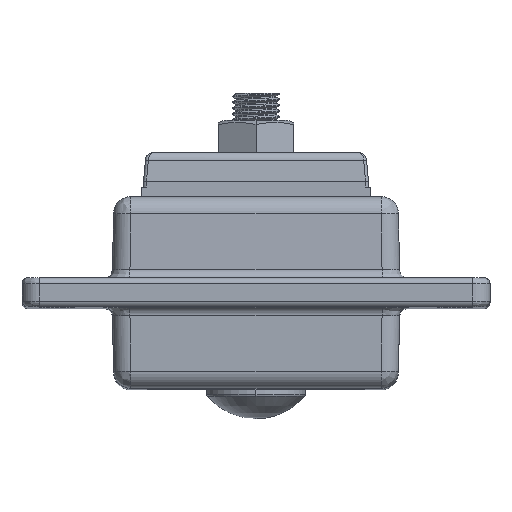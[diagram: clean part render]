
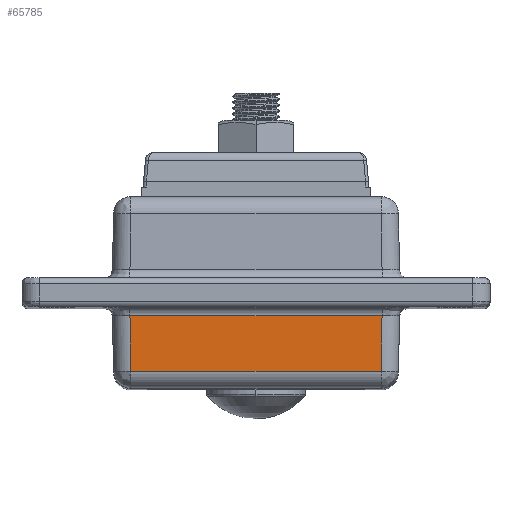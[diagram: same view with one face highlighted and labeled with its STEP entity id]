
A CAD part, top view. The second image highlights one B-rep face of the part: STEP entity #65785.
In plain terms, the highlighted planar face has unit normal (0, -0.018, 1).
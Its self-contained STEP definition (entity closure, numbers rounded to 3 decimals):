
#2876 = CARTESIAN_POINT ( 'NONE',  ( 25.46, 68.643, 216.864 ) ) ;
#8512 = LINE ( 'NONE', #27702, #53049 ) ;
#9677 = EDGE_CURVE ( 'NONE', #65074, #72427, #29457, .T. ) ;
#15476 = ORIENTED_EDGE ( 'NONE', *, *, #63887, .F. ) ;
#16279 = LINE ( 'NONE', #34830, #60800 ) ;
#18901 = CARTESIAN_POINT ( 'NONE',  ( 28.696, 68.643, 216.864 ) ) ;
#22617 = EDGE_CURVE ( 'NONE', #72427, #33827, #8512, .T. ) ;
#26572 = DIRECTION ( 'NONE',  ( -1., 0., 0. ) ) ;
#27702 = CARTESIAN_POINT ( 'NONE',  ( 71.724, 68.643, 216.864 ) ) ;
#28546 = DIRECTION ( 'NONE',  ( 0., -1., -0.017 ) ) ;
#29457 = LINE ( 'NONE', #2876, #61275 ) ;
#32124 = VERTEX_POINT ( 'NONE', #39673 ) ;
#33827 = VERTEX_POINT ( 'NONE', #71758 ) ;
#33885 = ORIENTED_EDGE ( 'NONE', *, *, #9677, .T. ) ;
#34830 = CARTESIAN_POINT ( 'NONE',  ( 27.422, 141.662, 218.138 ) ) ;
#39673 = CARTESIAN_POINT ( 'NONE',  ( 28.529, 78.221, 217.031 ) ) ;
#42094 = ORIENTED_EDGE ( 'NONE', *, *, #22617, .T. ) ;
#45005 = LINE ( 'NONE', #61382, #54990 ) ;
#45471 = AXIS2_PLACEMENT_3D ( 'NONE', #69677, #63823, #28546 ) ;
#48285 = DIRECTION ( 'NONE',  ( 1., 0., 0. ) ) ;
#52310 = EDGE_LOOP ( 'NONE', ( #15476, #33885, #42094, #60043 ) ) ;
#53049 = VECTOR ( 'NONE', #69600, 1000. ) ;
#54990 = VECTOR ( 'NONE', #26572, 1000. ) ;
#58423 = DIRECTION ( 'NONE',  ( -0.017, 1., 0.017 ) ) ;
#60043 = ORIENTED_EDGE ( 'NONE', *, *, #70203, .T. ) ;
#60800 = VECTOR ( 'NONE', #58423, 1000. ) ;
#61275 = VECTOR ( 'NONE', #48285, 1000. ) ;
#61382 = CARTESIAN_POINT ( 'NONE',  ( 72.348, 78.221, 217.031 ) ) ;
#63332 = PLANE ( 'NONE',  #45471 ) ;
#63823 = DIRECTION ( 'NONE',  ( 0., -0.017, 1. ) ) ;
#63887 = EDGE_CURVE ( 'NONE', #65074, #32124, #16279, .T. ) ;
#65074 = VERTEX_POINT ( 'NONE', #18901 ) ;
#65785 = ADVANCED_FACE ( 'NONE', ( #69793 ), #63332, .T. ) ;
#69600 = DIRECTION ( 'NONE',  ( 0.017, 1., 0.017 ) ) ;
#69677 = CARTESIAN_POINT ( 'NONE',  ( 25.46, 82.195, 217.1 ) ) ;
#69793 = FACE_OUTER_BOUND ( 'NONE', #52310, .T. ) ;
#70203 = EDGE_CURVE ( 'NONE', #33827, #32124, #45005, .T. ) ;
#71758 = CARTESIAN_POINT ( 'NONE',  ( 71.891, 78.221, 217.031 ) ) ;
#72427 = VERTEX_POINT ( 'NONE', #73504 ) ;
#73504 = CARTESIAN_POINT ( 'NONE',  ( 71.724, 68.643, 216.864 ) ) ;
